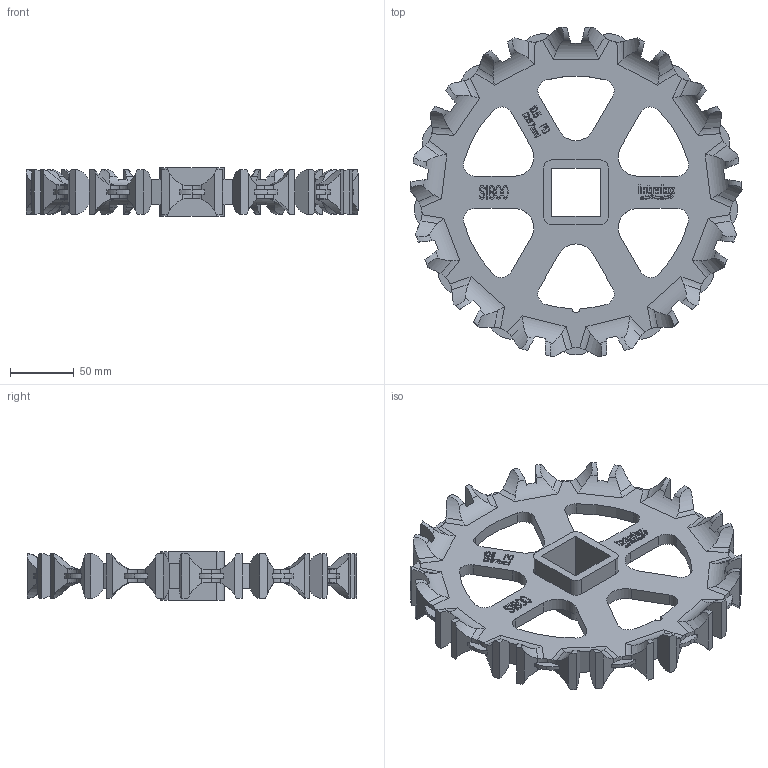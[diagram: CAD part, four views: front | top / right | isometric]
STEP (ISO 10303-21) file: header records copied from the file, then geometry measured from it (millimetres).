
FILE_DESCRIPTION((''),'2;1');
FILE_NAME('S1800_EZCLEAN_105X15_40_SQ','2008-12-12T',('jmumphre'),(''),'PRO/ENGINEER BY PARAMETRIC TECHNOLOGY CORPORATION, 2008150','PRO/ENGINEER BY PARAMETRIC TECHNOLOGY CORPORATION, 2008150','');
FILE_SCHEMA(('CONFIG_CONTROL_DESIGN'));
Length unit declared in the file: inch
Products named in the file (1): S1800_EZCLEAN_105X15_40_SQ
Bounding box: 261.07 x 259.16 x 38.1 mm (x, y, z)
Volume: 446844.2 mm3; surface area: 122963 mm2
Topology: 1 solids, 1 shells, 1243 faces, 3539 edges, 2342 vertices
Faces by surface type: plane 860, cylinder 383
Entity records: 42113 total; most frequent: CARTESIAN_POINT 10102, ORIENTED_EDGE 7078, DIRECTION 6011, EDGE_CURVE 3539, VECTOR 2721, LINE 2721, VERTEX_POINT 2342, AXIS2_PLACEMENT_3D 1645
